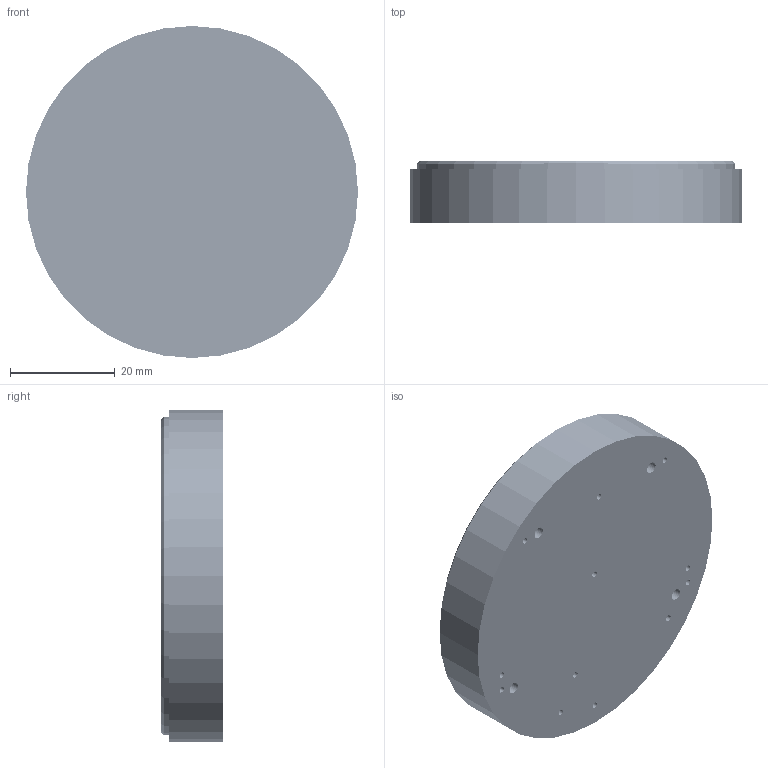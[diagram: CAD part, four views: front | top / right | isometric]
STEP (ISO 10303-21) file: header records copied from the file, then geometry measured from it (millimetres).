
FILE_DESCRIPTION (( 'STEP AP214' ), '1' );
FILE_NAME ('01PG_3-12-14.STEP', '2014-03-12T19:33:07', ( '' ), ( '' ), 'SwSTEP 2.0', 'SolidWorks 2014', '' );
FILE_SCHEMA (( 'AUTOMOTIVE_DESIGN' ));
Length unit declared in the file: inch
Products named in the file (702): R84_NP5S-REVF; C220_NP5S-REVF; U35_NP5S-REVF; C78_NP5S-REVF; Extruded_47_NP5S-REVF; Extruded_94_NP5S-REVF; L73_NP5S-REVF; C150_NP5S-REVF; SMB_NP5S-REVF; Extruded_77_NP5S-REVF; R63_NP5S-REVF; C202_NP5S-REVF; C7_NP5S-REVF; 186906672_NP5S-REVF; U20_NP5S-REVF; L7_NP5S-REVF; 509538016_NP5S-REVF; C136_NP5S-REVF; R48_NP5S-REVF; Extruded_31_NP5S-REVF; 484704608_NP5S-REVF; 186905904_NP5S-REVF; C53_NP5S-REVF; R140_NP5S-REVF; J3_NP5S-REVF; R114_NP5S-REVF; C119_NP5S-REVF; R34_NP5S-REVF; Extruded_28_NP5S-REVF; Extruded_7_NP5S-REVF; 01PG_3-12-14; C40_NP5S-REVF; D4_NP5S-REVF; TH4_NP5S-REVF; C105_NP5S-REVF; 186907952_NP5S-REVF; Extruded_54_NP5S-REVF; R117_NP5S-REVF; R21_NP5S-REVF; C174_NP5S-REVF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
Assembly tree (1183 placements, depth 6):
  01PG_3-12-14
    QSX-PUCK-TX-DYNETICS_HOUSING-
    XMTR-NP5S-REVF_NP5S-REVF
      Components_NP5S-REVF
        TH3_NP5S-REVF
          509535072_NP5S-REVF
            Extruded_NP5S-REVF
        C107_NP5S-REVF
          484704352_NP5S-REVF
            Extruded_2_NP5S-REVF
        U11_NP5S-REVF
          186908080_NP5S-REVF
            Extruded_3_NP5S-REVF
        C19_NP5S-REVF
          484704224_NP5S-REVF
            Extruded_4_NP5S-REVF
        U44_NP5S-REVF
          186869376_NP5S-REVF
            Extruded_5_NP5S-REVF
        U42_NP5S-REVF
          186904624_NP5S-REVF
            Extruded_6_NP5S-REVF
        R182_NP5S-REVF
          484704352_NP5S-REVF
            Extruded_2_NP5S-REVF
        R181_NP5S-REVF
          484704352_NP5S-REVF
            Extruded_2_NP5S-REVF
        R180_NP5S-REVF
          484704224_NP5S-REVF
            Extruded_4_NP5S-REVF
        R179_NP5S-REVF
          484704352_NP5S-REVF
            Extruded_2_NP5S-REVF
        R177_NP5S-REVF
          484704224_NP5S-REVF
            Extruded_4_NP5S-REVF
        R176_NP5S-REVF
          484704352_NP5S-REVF
            Extruded_2_NP5S-REVF
        R175_NP5S-REVF
          484704224_NP5S-REVF
            Extruded_4_NP5S-REVF
        R174_NP5S-REVF
          484704352_NP5S-REVF
            Extruded_2_NP5S-REVF
        R173_NP5S-REVF
          484704352_NP5S-REVF
            Extruded_2_NP5S-REVF
        R172_NP5S-REVF
          484704352_NP5S-REVF
            Extruded_2_NP5S-REVF
        R153_NP5S-REVF
          484704224_NP5S-REVF
            Extruded_4_NP5S-REVF
        R152_NP5S-REVF
          484704352_NP5S-REVF
            Extruded_2_NP5S-REVF
        R149_NP5S-REVF
          484704352_NP5S-REVF
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Bounding box: 63.5 x 11.81 x 63.5 mm (x, y, z)
Volume: 21125.9 mm3; surface area: 34701.8 mm2
Topology: 633 solids, 637 shells, 8278 faces, 20631 edges, 13696 vertices
Faces by surface type: plane 4509, cylinder 3662, cone 63, torus 26, bspline 18
Entity records: 262940 total; most frequent: DIRECTION 36266, CARTESIAN_POINT 32627, ORIENTED_EDGE 29408, EDGE_CURVE 14705, AXIS2_PLACEMENT_3D 14519, VERTEX_POINT 9756, EDGE_LOOP 8354, CIRCLE 7422
